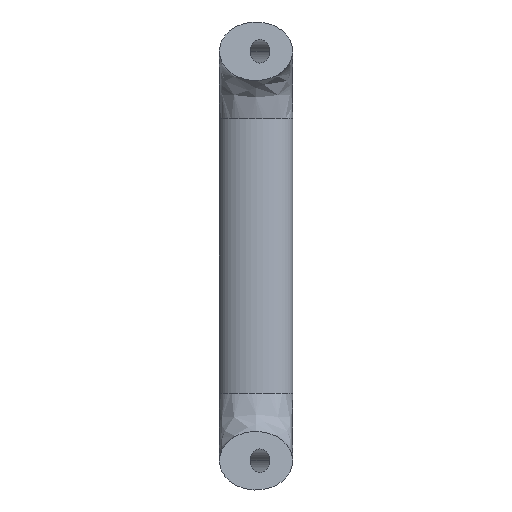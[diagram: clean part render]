
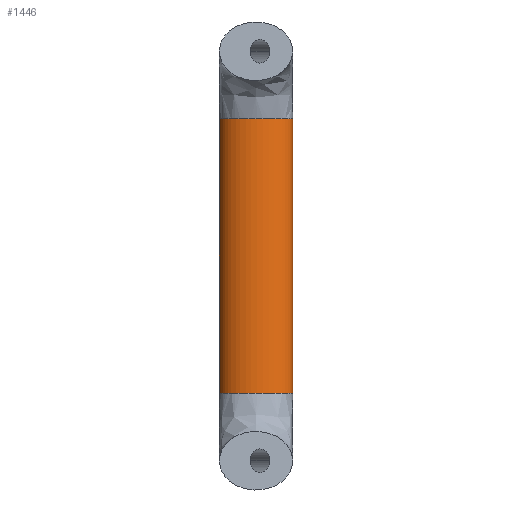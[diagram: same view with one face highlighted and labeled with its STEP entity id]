
A CAD part, front view. The second image highlights one B-rep face of the part: STEP entity #1446.
In plain terms, the highlighted free-form (B-spline) face has degree [3, 1] with [4, 2] control points.
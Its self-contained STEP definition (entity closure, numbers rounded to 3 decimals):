
#21 = EDGE_CURVE ( 'NONE', #2663, #2774, #1216, .T. ) ;
#45 = ORIENTED_EDGE ( 'NONE', *, *, #2272, .T. ) ;
#115 = EDGE_LOOP ( 'NONE', ( #45, #1029, #1385, #577 ) ) ;
#164 = VECTOR ( 'NONE', #424, 1000. ) ;
#180 = CARTESIAN_POINT ( 'NONE',  ( -10., 0., -37.5 ) ) ;
#329 = FACE_OUTER_BOUND ( 'NONE', #115, .T. ) ;
#332 = VERTEX_POINT ( 'NONE', #2589 ) ;
#424 = DIRECTION ( 'NONE',  ( 0., 0., 1. ) ) ;
#426 = VERTEX_POINT ( 'NONE', #729 ) ;
#431 =( BOUNDED_SURFACE ( )  B_SPLINE_SURFACE ( 3, 1, ( 
 ( #1754, #448 ),
 ( #670, #2199 ),
 ( #895, #2419 ),
 ( #1113, #2644 ) ),
 .UNSPECIFIED., .F., .F., .F. ) 
 B_SPLINE_SURFACE_WITH_KNOTS ( ( 4, 4 ),
 ( 2, 2 ),
 ( 0., 1. ),
 ( 0., 1. ),
 .UNSPECIFIED. ) 
 GEOMETRIC_REPRESENTATION_ITEM ( )  RATIONAL_B_SPLINE_SURFACE ( (
 ( 1., 1.),
 ( 0.333, 0.333),
 ( 0.333, 0.333),
 ( 1., 1.) ) ) 
 REPRESENTATION_ITEM ( '' )  SURFACE ( )  );
#448 = CARTESIAN_POINT ( 'NONE',  ( -10., 0., 37.5 ) ) ;
#577 = ORIENTED_EDGE ( 'NONE', *, *, #21, .F. ) ;
#670 = CARTESIAN_POINT ( 'NONE',  ( -10., -13., -37.5 ) ) ;
#729 = CARTESIAN_POINT ( 'NONE',  ( 10., 0., -37.5 ) ) ;
#760 = CARTESIAN_POINT ( 'NONE',  ( 10., -13., -37.5 ) ) ;
#850 = CARTESIAN_POINT ( 'NONE',  ( 10., 0., 37.5 ) ) ;
#893 = CARTESIAN_POINT ( 'NONE',  ( -10., 0., 37.5 ) ) ;
#895 = CARTESIAN_POINT ( 'NONE',  ( 10., -13., -37.5 ) ) ;
#962 = EDGE_CURVE ( 'NONE', #426, #332, #1333, .T. ) ;
#1029 = ORIENTED_EDGE ( 'NONE', *, *, #962, .T. ) ;
#1063 = DIRECTION ( 'NONE',  ( 0., 0., 1. ) ) ;
#1113 = CARTESIAN_POINT ( 'NONE',  ( 10., 0., -37.5 ) ) ;
#1170 = CARTESIAN_POINT ( 'NONE',  ( -10., 0., -37.5 ) ) ;
#1216 = LINE ( 'NONE', #1731, #1632 ) ;
#1333 = LINE ( 'NONE', #2586, #164 ) ;
#1385 = ORIENTED_EDGE ( 'NONE', *, *, #2704, .F. ) ;
#1446 = ADVANCED_FACE ( 'NONE', ( #329 ), #431, .T. ) ;
#1491 = CARTESIAN_POINT ( 'NONE',  ( -10., -13., 37.5 ) ) ;
#1632 = VECTOR ( 'NONE', #1063, 1000. ) ;
#1731 = CARTESIAN_POINT ( 'NONE',  ( -10., 0., -37.5 ) ) ;
#1754 = CARTESIAN_POINT ( 'NONE',  ( -10., 0., -37.5 ) ) ;
#1937 = CARTESIAN_POINT ( 'NONE',  ( -10., 0., 37.5 ) ) ;
#2006 =( BOUNDED_CURVE ( )  B_SPLINE_CURVE ( 3, ( #1937, #1491, #2158, #850 ),
 .UNSPECIFIED., .F., .F. ) 
 B_SPLINE_CURVE_WITH_KNOTS ( ( 4, 4 ),
 ( 0., 3.142 ),
 .UNSPECIFIED. ) 
 CURVE ( )  GEOMETRIC_REPRESENTATION_ITEM ( )  RATIONAL_B_SPLINE_CURVE ( ( 1., 0.333, 0.333, 1. ) ) 
 REPRESENTATION_ITEM ( '' )  );
#2158 = CARTESIAN_POINT ( 'NONE',  ( 10., -13., 37.5 ) ) ;
#2199 = CARTESIAN_POINT ( 'NONE',  ( -10., -13., 37.5 ) ) ;
#2272 = EDGE_CURVE ( 'NONE', #2663, #426, #2721, .T. ) ;
#2273 = CARTESIAN_POINT ( 'NONE',  ( -10., -13., -37.5 ) ) ;
#2281 = CARTESIAN_POINT ( 'NONE',  ( 10., 0., -37.5 ) ) ;
#2419 = CARTESIAN_POINT ( 'NONE',  ( 10., -13., 37.5 ) ) ;
#2586 = CARTESIAN_POINT ( 'NONE',  ( 10., 0., -37.5 ) ) ;
#2589 = CARTESIAN_POINT ( 'NONE',  ( 10., 0., 37.5 ) ) ;
#2644 = CARTESIAN_POINT ( 'NONE',  ( 10., 0., 37.5 ) ) ;
#2663 = VERTEX_POINT ( 'NONE', #180 ) ;
#2704 = EDGE_CURVE ( 'NONE', #2774, #332, #2006, .T. ) ;
#2721 =( BOUNDED_CURVE ( )  B_SPLINE_CURVE ( 3, ( #1170, #2273, #760, #2281 ),
 .UNSPECIFIED., .F., .T. ) 
 B_SPLINE_CURVE_WITH_KNOTS ( ( 4, 4 ),
 ( 0., 3.142 ),
 .UNSPECIFIED. ) 
 CURVE ( )  GEOMETRIC_REPRESENTATION_ITEM ( )  RATIONAL_B_SPLINE_CURVE ( ( 1., 0.333, 0.333, 1. ) ) 
 REPRESENTATION_ITEM ( '' )  );
#2774 = VERTEX_POINT ( 'NONE', #893 ) ;
